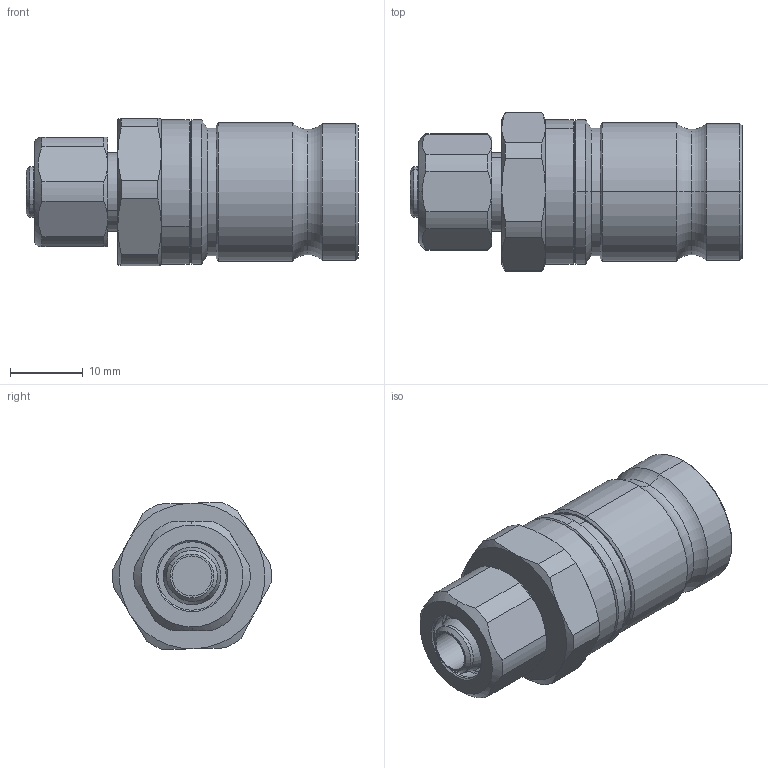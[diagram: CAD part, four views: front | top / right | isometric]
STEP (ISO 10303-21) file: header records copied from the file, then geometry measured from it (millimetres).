
FILE_DESCRIPTION (( 'STEP AP203' ), '1' );
FILE_NAME ('QD2-FT06X10.STEP', '2025-01-02T02:51:36', ( 'aksong' ), ( '' ), 'SwSTEP 2.0', 'SolidWorks 2012', '' );
FILE_SCHEMA (( 'CONFIG_CONTROL_DESIGN' ));
Length unit declared in the file: millimetre
Products named in the file (4): QD2-FT06X10; female body; Compression 6X10 cap nut; Compression 6X10, Female 喻闌
Assembly tree (3 placements, depth 2):
  QD2-FT06X10
    female body
    Compression 6X10, Female 喻闌
    Compression 6X10 cap nut
Bounding box: 45.6 x 21.8 x 20.23 mm (x, y, z)
Volume: 10142 mm3; surface area: 6327.7 mm2
Topology: 3 solids, 3 shells, 252 faces, 524 edges, 298 vertices
Faces by surface type: cone 102, cylinder 94, plane 38, torus 18
Entity records: 7176 total; most frequent: CARTESIAN_POINT 1296, DIRECTION 1286, ORIENTED_EDGE 1048, AXIS2_PLACEMENT_3D 548, EDGE_CURVE 524, VERTEX_POINT 298, CIRCLE 290, EDGE_LOOP 276
